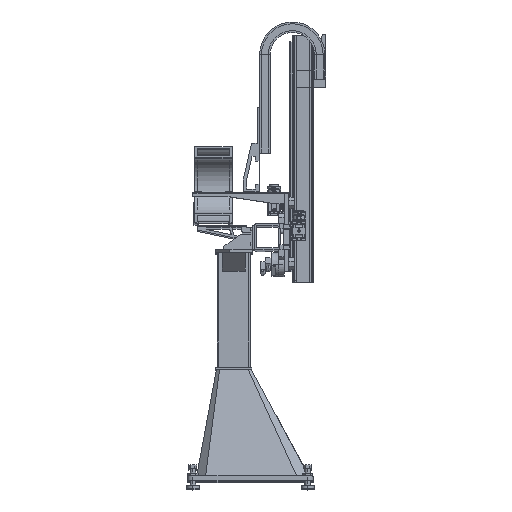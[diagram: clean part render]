
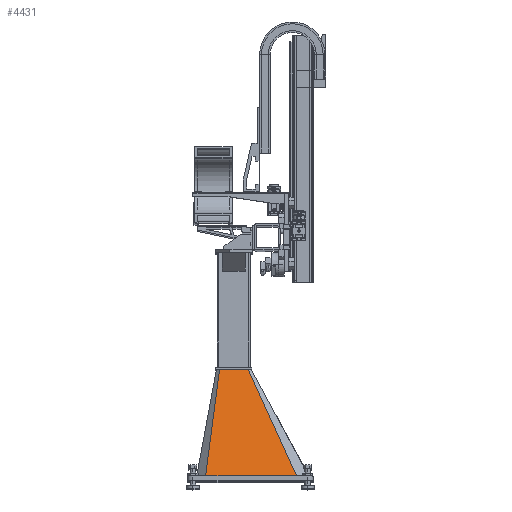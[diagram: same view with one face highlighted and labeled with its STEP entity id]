
A CAD part, top view. The second image highlights one B-rep face of the part: STEP entity #4431.
In plain terms, the highlighted planar face has unit normal (0, 0.224, 0.975).
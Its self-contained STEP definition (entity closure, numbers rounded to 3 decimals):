
#4431 = ADVANCED_FACE ( 'NONE', ( #28695 ), #26458, .T. ) ;
#5436 = AXIS2_PLACEMENT_3D ( 'NONE', #29224, #9140, #35252 ) ;
#5968 = LINE ( 'NONE', #45938, #52259 ) ;
#7647 = VECTOR ( 'NONE', #39061, 1000. ) ;
#7931 = ORIENTED_EDGE ( 'NONE', *, *, #46039, .T. ) ;
#8266 = ORIENTED_EDGE ( 'NONE', *, *, #39000, .T. ) ;
#9140 = DIRECTION ( 'NONE',  ( 0., 0.224, 0.975 ) ) ;
#9834 = LINE ( 'NONE', #16819, #54702 ) ;
#10609 = CARTESIAN_POINT ( 'NONE',  ( -291.5, -807., 106. ) ) ;
#16819 = CARTESIAN_POINT ( 'NONE',  ( 177.5, -1459., 256. ) ) ;
#17125 = CARTESIAN_POINT ( 'NONE',  ( -117.5, -807., 106. ) ) ;
#17662 = LINE ( 'NONE', #17125, #7647 ) ;
#19705 = ORIENTED_EDGE ( 'NONE', *, *, #39721, .T. ) ;
#21468 = VECTOR ( 'NONE', #39827, 1000. ) ;
#24866 = VERTEX_POINT ( 'NONE', #49080 ) ;
#25456 = CARTESIAN_POINT ( 'NONE',  ( -376.5, -1459., 256. ) ) ;
#26458 = PLANE ( 'NONE',  #5436 ) ;
#27025 = CARTESIAN_POINT ( 'NONE',  ( 177.5, -1459., 256. ) ) ;
#28695 = FACE_OUTER_BOUND ( 'NONE', #35626, .T. ) ;
#29224 = CARTESIAN_POINT ( 'NONE',  ( 0., -17.405, -75.655 ) ) ;
#34195 = DIRECTION ( 'NONE',  ( 1., 0., 0. ) ) ;
#35252 = DIRECTION ( 'NONE',  ( 0., -0.975, 0.224 ) ) ;
#35626 = EDGE_LOOP ( 'NONE', ( #19705, #8266, #40209, #7931 ) ) ;
#39000 = EDGE_CURVE ( 'NONE', #24866, #51562, #17662, .T. ) ;
#39061 = DIRECTION ( 'NONE',  ( -1., 0., 0. ) ) ;
#39721 = EDGE_CURVE ( 'NONE', #56191, #24866, #5968, .T. ) ;
#39827 = DIRECTION ( 'NONE',  ( 0.126, 0.967, -0.222 ) ) ;
#40209 = ORIENTED_EDGE ( 'NONE', *, *, #53450, .F. ) ;
#41000 = CARTESIAN_POINT ( 'NONE',  ( -376.5, -1459., 256. ) ) ;
#44656 = LINE ( 'NONE', #25456, #21468 ) ;
#45938 = CARTESIAN_POINT ( 'NONE',  ( 177.5, -1459., 256. ) ) ;
#46039 = EDGE_CURVE ( 'NONE', #48013, #56191, #9834, .T. ) ;
#48013 = VERTEX_POINT ( 'NONE', #41000 ) ;
#49080 = CARTESIAN_POINT ( 'NONE',  ( -117.5, -807., 106. ) ) ;
#51562 = VERTEX_POINT ( 'NONE', #10609 ) ;
#52259 = VECTOR ( 'NONE', #56179, 1000. ) ;
#53450 = EDGE_CURVE ( 'NONE', #48013, #51562, #44656, .T. ) ;
#54702 = VECTOR ( 'NONE', #34195, 1000. ) ;
#56179 = DIRECTION ( 'NONE',  ( -0.403, 0.892, -0.205 ) ) ;
#56191 = VERTEX_POINT ( 'NONE', #27025 ) ;
